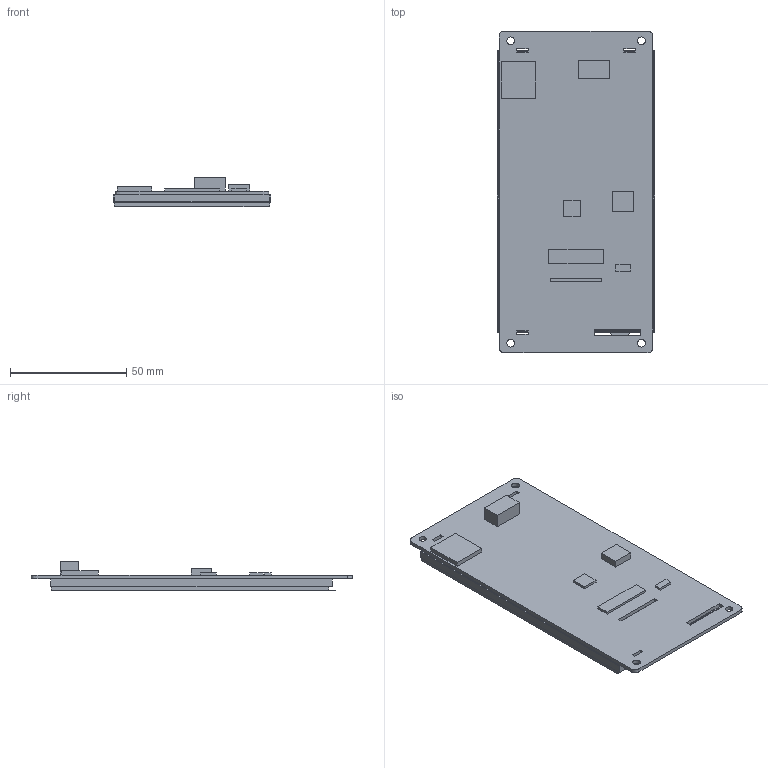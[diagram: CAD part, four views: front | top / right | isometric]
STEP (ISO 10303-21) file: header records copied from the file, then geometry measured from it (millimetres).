
FILE_DESCRIPTION(/* description */ (''),/* implementation_level */ '2;1');
FILE_NAME(/* name */ 'VTc050T34DT.stp',/* time_stamp */ '2024-12-24T14:46:17+08:00',/* author */ (''),/* organization */ (''),/* preprocessor_version */ 'ST-DEVELOPER v16',/* originating_system */ 'SIEMENS PLM Software NX 10.0',/* authorisation */ '');
FILE_SCHEMA (('AP203_CONFIGURATION_CONTROLLED_3D_DESIGN_OF_MECHANICAL_PARTS_AND_ASSEMBLIES_MIM_LF { 1 0 10303 403 2 1 2}'));
Length unit declared in the file: millimetre
Products named in the file (1): VTc050T34DT
Bounding box: 67.6 x 138.3 x 12.7 mm (x, y, z)
Volume: 46778.4 mm3; surface area: 85130.8 mm2
Topology: 8 solids, 8 shells, 128 faces, 315 edges, 210 vertices
Faces by surface type: plane 117, cylinder 8, extrusion 3
Full cylindrical faces by diameter (mm): 3.3 x4
Entity records: 4645 total; most frequent: CARTESIAN_POINT 1292, ORIENTED_EDGE 622, DIRECTION 440, EDGE_CURVE 311, VERTEX_POINT 210, EDGE_LOOP 163, VECTOR 156, LINE 153
